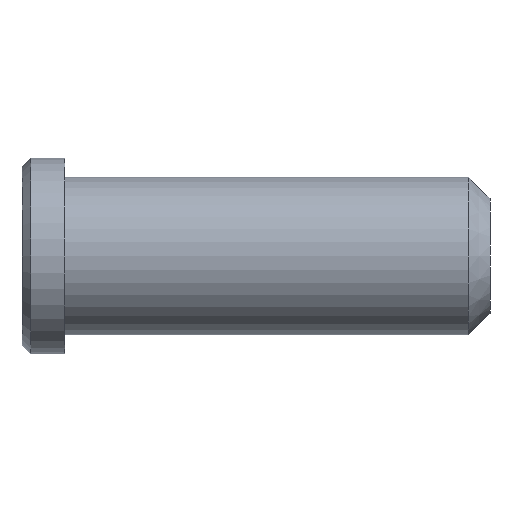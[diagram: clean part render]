
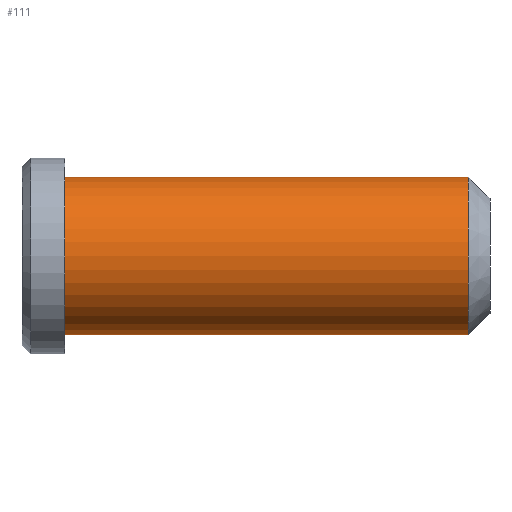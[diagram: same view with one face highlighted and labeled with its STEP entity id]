
A CAD part, front view. The second image highlights one B-rep face of the part: STEP entity #111.
In plain terms, the highlighted cylindrical face has radius 0.927 mm (diameter 1.854 mm), a full revolution.
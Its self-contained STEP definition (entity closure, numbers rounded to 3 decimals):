
#18=CYLINDRICAL_SURFACE($,#132,0.927);
#26=FACE_BOUND($,#51,.T.);
#35=FACE_OUTER_BOUND($,#50,.T.);
#50=EDGE_LOOP($,(#95));
#51=EDGE_LOOP($,(#96));
#61=CIRCLE($,#130,0.927);
#63=CIRCLE($,#133,0.927);
#70=VERTEX_POINT($,#196);
#72=VERTEX_POINT($,#201);
#79=EDGE_CURVE($,#70,#70,#61,.T.);
#81=EDGE_CURVE($,#72,#72,#63,.T.);
#95=ORIENTED_EDGE($,*,*,#81,.T.);
#96=ORIENTED_EDGE($,*,*,#79,.F.);
#111=ADVANCED_FACE($,(#35,#26),#18,.T.);
#130=AXIS2_PLACEMENT_3D($,#197,#164,#165);
#132=AXIS2_PLACEMENT_3D($,#200,#168,#169);
#133=AXIS2_PLACEMENT_3D($,#202,#170,#171);
#164=DIRECTION('center_axis',(1.,0.,0.));
#165=DIRECTION('ref_axis',(0.,-1.,0.));
#168=DIRECTION('center_axis',(1.,0.,0.));
#169=DIRECTION('ref_axis',(0.,1.,0.));
#170=DIRECTION('center_axis',(1.,0.,0.));
#171=DIRECTION('ref_axis',(0.,0.,-1.));
#196=CARTESIAN_POINT('',(5.246,0.927,0.));
#197=CARTESIAN_POINT('Origin',(5.246,0.,0.));
#200=CARTESIAN_POINT('Origin',(3.,0.,0.));
#201=CARTESIAN_POINT('',(0.5,0.927,0.));
#202=CARTESIAN_POINT('Origin',(0.5,0.,0.));
